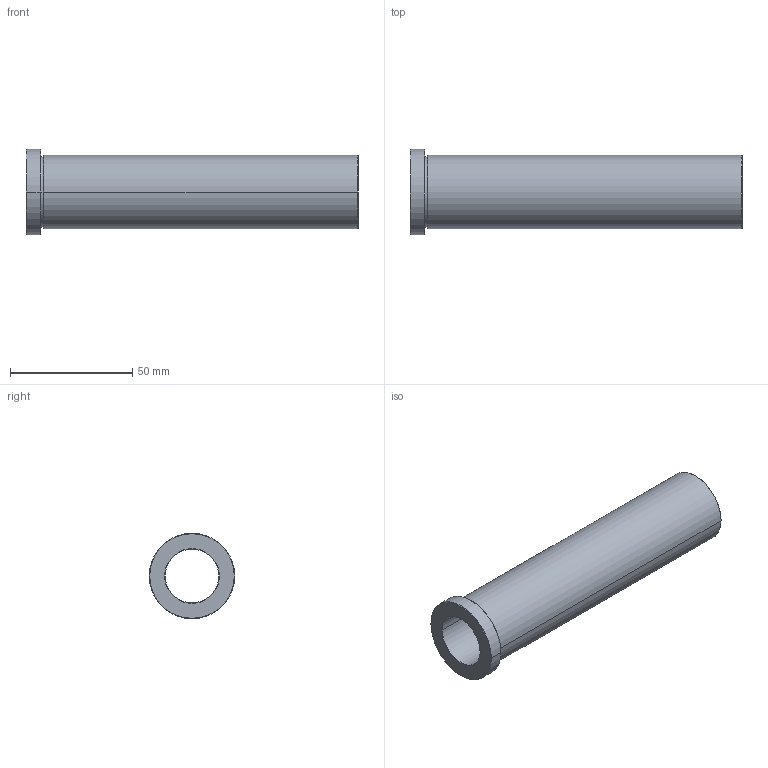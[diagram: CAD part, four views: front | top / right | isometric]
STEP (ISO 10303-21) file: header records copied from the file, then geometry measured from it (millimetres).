
FILE_DESCRIPTION (( 'STEP AP214' ), '1' );
FILE_NAME ('R03_136x22.STEP', '2015-03-05T14:48:29', ( 'TGL' ), ( '' ), 'SwSTEP 2.0', 'SolidWorks 2011', '' );
FILE_SCHEMA (( 'AUTOMOTIVE_DESIGN' ));
Length unit declared in the file: millimetre
Products named in the file (1): R03_136x22
Bounding box: 136 x 35 x 35 mm (x, y, z)
Volume: 45754.5 mm3; surface area: 23420.1 mm2
Topology: 1 solids, 1 shells, 24 faces, 48 edges, 28 vertices
Faces by surface type: cone 10, cylinder 8, plane 4, torus 2
Entity records: 730 total; most frequent: DIRECTION 128, CARTESIAN_POINT 101, ORIENTED_EDGE 96, AXIS2_PLACEMENT_3D 55, EDGE_CURVE 48, CIRCLE 30, EDGE_LOOP 28, VERTEX_POINT 28
